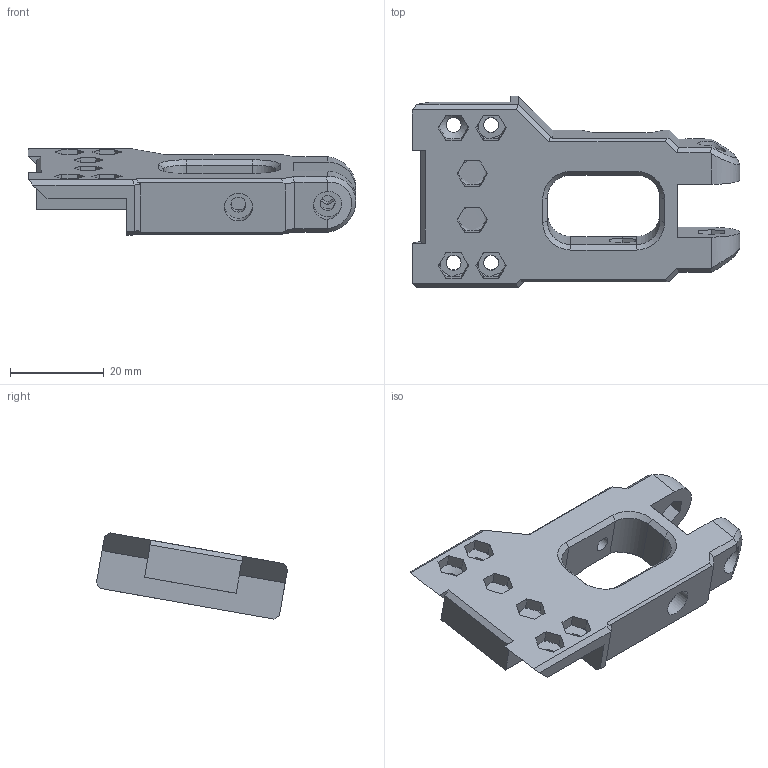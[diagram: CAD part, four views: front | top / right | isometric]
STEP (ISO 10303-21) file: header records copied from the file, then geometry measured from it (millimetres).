
FILE_DESCRIPTION(/* description */ (''),/* implementation_level */ '2;1');
FILE_NAME(/* name */ '4-13-1 Bottom wishbone right.step',/* time_stamp */ '2025-05-10T22:17:35+02:00',/* author */ (''),/* organization */ (''),/* preprocessor_version */ 'ST-DEVELOPER v20.1',/* originating_system */ 'Autodesk Translation Framework v14.4.0.0',/* authorisation */ '');
FILE_SCHEMA (('AUTOMOTIVE_DESIGN { 1 0 10303 214 3 1 1 }'));
Length unit declared in the file: millimetre
Products named in the file (1): Bottom wishbone right
Bounding box: 69.8 x 40.73 x 18.35 mm (x, y, z)
Volume: 14410.8 mm3; surface area: 7320 mm2
Topology: 1 solids, 1 shells, 199 faces, 546 edges, 353 vertices
Faces by surface type: plane 162, cylinder 19, cone 14, bspline 4
Full cylindrical faces by diameter (mm): 3.2 x10, 6 x3
Entity records: 6495 total; most frequent: CARTESIAN_POINT 1445, ORIENTED_EDGE 1092, DIRECTION 976, EDGE_CURVE 546, LINE 400, VECTOR 400, VERTEX_POINT 353, AXIS2_PLACEMENT_3D 288
